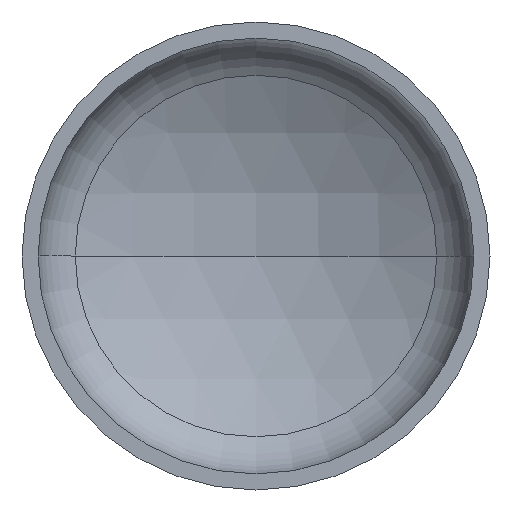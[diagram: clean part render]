
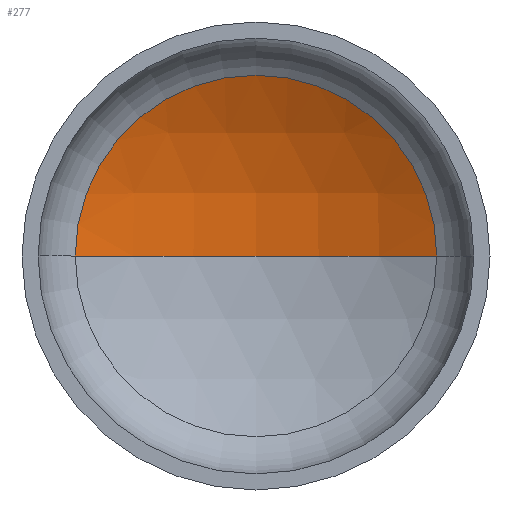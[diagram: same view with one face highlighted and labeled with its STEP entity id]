
A CAD part, front view. The second image highlights one B-rep face of the part: STEP entity #277.
In plain terms, the highlighted spherical face has radius 2240 mm.
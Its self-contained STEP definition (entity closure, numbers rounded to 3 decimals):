
#5 = AXIS2_PLACEMENT_3D ( 'NONE', #371, #228, #392 ) ;
#12 = AXIS2_PLACEMENT_3D ( 'NONE', #108, #113, #64 ) ;
#19 = EDGE_LOOP ( 'NONE', ( #140, #126, #59 ) ) ;
#21 = AXIS2_PLACEMENT_3D ( 'NONE', #295, #174, #386 ) ;
#46 = AXIS2_PLACEMENT_3D ( 'NONE', #216, #203, #250 ) ;
#56 = VERTEX_POINT ( 'NONE', #246 ) ;
#59 = ORIENTED_EDGE ( 'NONE', *, *, #350, .T. ) ;
#64 = DIRECTION ( 'NONE',  ( 1., 0., 0. ) ) ;
#76 = VERTEX_POINT ( 'NONE', #243 ) ;
#88 = CIRCLE ( 'NONE', #21, 1081.635 ) ;
#108 = CARTESIAN_POINT ( 'NONE',  ( 0., -1485., 0. ) ) ;
#113 = DIRECTION ( 'NONE',  ( 0., 0., 1. ) ) ;
#116 = VERTEX_POINT ( 'NONE', #199 ) ;
#126 = ORIENTED_EDGE ( 'NONE', *, *, #393, .T. ) ;
#140 = ORIENTED_EDGE ( 'NONE', *, *, #374, .F. ) ;
#174 = DIRECTION ( 'NONE',  ( 0., -1., 0. ) ) ;
#178 = CIRCLE ( 'NONE', #5, 2240. ) ;
#185 = CIRCLE ( 'NONE', #12, 2240. ) ;
#199 = CARTESIAN_POINT ( 'NONE',  ( -1081.635, 476.547, 0. ) ) ;
#203 = DIRECTION ( 'NONE',  ( 0., 0., -1. ) ) ;
#216 = CARTESIAN_POINT ( 'NONE',  ( 0., -1485., 0. ) ) ;
#219 = SPHERICAL_SURFACE ( 'NONE', #46, 2240. ) ;
#228 = DIRECTION ( 'NONE',  ( 0., 0., -1. ) ) ;
#243 = CARTESIAN_POINT ( 'NONE',  ( 1081.635, 476.547, 0. ) ) ;
#246 = CARTESIAN_POINT ( 'NONE',  ( 0., 755., 0. ) ) ;
#250 = DIRECTION ( 'NONE',  ( -1., 0., 0. ) ) ;
#277 = ADVANCED_FACE ( 'NONE', ( #399 ), #219, .F. ) ;
#295 = CARTESIAN_POINT ( 'NONE',  ( 0., 476.547, 0. ) ) ;
#350 = EDGE_CURVE ( 'NONE', #76, #116, #88, .T. ) ;
#371 = CARTESIAN_POINT ( 'NONE',  ( 0., -1485., 0. ) ) ;
#374 = EDGE_CURVE ( 'NONE', #56, #116, #185, .T. ) ;
#386 = DIRECTION ( 'NONE',  ( 1., 0., 0. ) ) ;
#392 = DIRECTION ( 'NONE',  ( -1., 0., 0. ) ) ;
#393 = EDGE_CURVE ( 'NONE', #56, #76, #178, .T. ) ;
#399 = FACE_OUTER_BOUND ( 'NONE', #19, .T. ) ;
